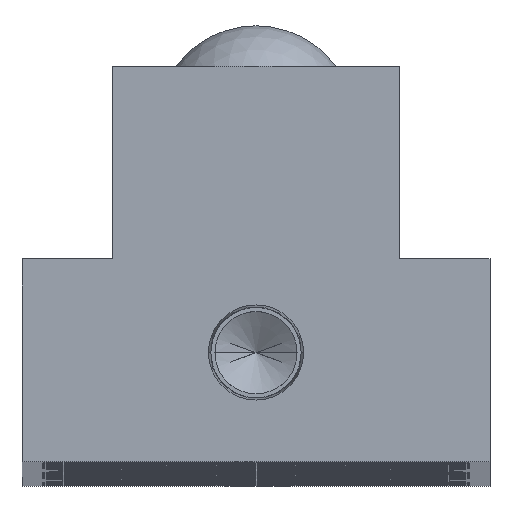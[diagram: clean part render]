
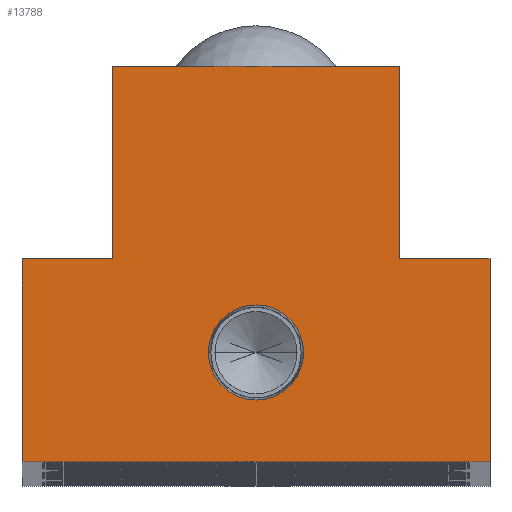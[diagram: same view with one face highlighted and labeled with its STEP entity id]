
A CAD part, top view. The second image highlights one B-rep face of the part: STEP entity #13788.
In plain terms, the highlighted planar face has unit normal (0, 0, 1).
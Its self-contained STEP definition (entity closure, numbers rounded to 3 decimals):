
#134 = LINE ( 'NONE', #23972, #4090 ) ;
#196 = CARTESIAN_POINT ( 'NONE',  ( 0., 10.5, 0. ) ) ;
#316 = EDGE_CURVE ( 'NONE', #2780, #13593, #134, .T. ) ;
#320 = CARTESIAN_POINT ( 'NONE',  ( 4.574, 10.5, 0. ) ) ;
#409 = VECTOR ( 'NONE', #7381, 1000. ) ;
#976 = DIRECTION ( 'NONE',  ( 0., -1., 0. ) ) ;
#1223 = DIRECTION ( 'NONE',  ( -1., 0., 0. ) ) ;
#1510 = FACE_OUTER_BOUND ( 'NONE', #13529, .T. ) ;
#1598 = VECTOR ( 'NONE', #21814, 1000. ) ;
#2028 = CARTESIAN_POINT ( 'NONE',  ( -4.574, 10.5, 0. ) ) ;
#2080 = AXIS2_PLACEMENT_3D ( 'NONE', #23856, #12714, #1223 ) ;
#2149 = DIRECTION ( 'NONE',  ( 1., 0., 0. ) ) ;
#2722 = ORIENTED_EDGE ( 'NONE', *, *, #22894, .T. ) ;
#2780 = VERTEX_POINT ( 'NONE', #6968 ) ;
#2880 = CARTESIAN_POINT ( 'NONE',  ( 13.75, 38., 0. ) ) ;
#3400 = CARTESIAN_POINT ( 'NONE',  ( -13.75, 19.5, 0. ) ) ;
#4090 = VECTOR ( 'NONE', #10966, 1000. ) ;
#4292 = LINE ( 'NONE', #14324, #12664 ) ;
#4369 = VECTOR ( 'NONE', #5221, 1000. ) ;
#4413 = VECTOR ( 'NONE', #23627, 1000. ) ;
#4680 = CARTESIAN_POINT ( 'NONE',  ( 0., 10.5, 0. ) ) ;
#5006 = VERTEX_POINT ( 'NONE', #22719 ) ;
#5039 = LINE ( 'NONE', #12503, #4413 ) ;
#5138 = CIRCLE ( 'NONE', #15296, 4.574 ) ;
#5221 = DIRECTION ( 'NONE',  ( -1., 0., 0. ) ) ;
#5386 = DIRECTION ( 'NONE',  ( 1., 0., 0. ) ) ;
#5888 = VERTEX_POINT ( 'NONE', #8272 ) ;
#6640 = DIRECTION ( 'NONE',  ( 1., 0., 0. ) ) ;
#6968 = CARTESIAN_POINT ( 'NONE',  ( 22.5, 0., 0. ) ) ;
#7381 = DIRECTION ( 'NONE',  ( -1., 0., 0. ) ) ;
#7696 = VERTEX_POINT ( 'NONE', #23093 ) ;
#7746 = ORIENTED_EDGE ( 'NONE', *, *, #16342, .T. ) ;
#8272 = CARTESIAN_POINT ( 'NONE',  ( -22.5, 19.5, 0. ) ) ;
#8618 = EDGE_CURVE ( 'NONE', #7696, #14605, #13670, .T. ) ;
#8644 = CIRCLE ( 'NONE', #13826, 4.574 ) ;
#8775 = CARTESIAN_POINT ( 'NONE',  ( -13.75, 38., 0. ) ) ;
#8781 = VECTOR ( 'NONE', #5386, 1000. ) ;
#9097 = CARTESIAN_POINT ( 'NONE',  ( 22.5, 19.5, 0. ) ) ;
#9835 = DIRECTION ( 'NONE',  ( 0., 1., 0. ) ) ;
#10083 = VERTEX_POINT ( 'NONE', #18409 ) ;
#10689 = LINE ( 'NONE', #24215, #409 ) ;
#10966 = DIRECTION ( 'NONE',  ( 0., 1., 0. ) ) ;
#11148 = FACE_BOUND ( 'NONE', #22578, .T. ) ;
#12010 = CARTESIAN_POINT ( 'NONE',  ( 22.5, 19.5, 0. ) ) ;
#12503 = CARTESIAN_POINT ( 'NONE',  ( -13.75, 19.5, 0. ) ) ;
#12664 = VECTOR ( 'NONE', #976, 1000. ) ;
#12714 = DIRECTION ( 'NONE',  ( 0., 0., -1. ) ) ;
#12995 = ORIENTED_EDGE ( 'NONE', *, *, #19429, .F. ) ;
#13529 = EDGE_LOOP ( 'NONE', ( #18400, #7746, #20646, #2722, #16855, #21700, #22142, #24069 ) ) ;
#13583 = DIRECTION ( 'NONE',  ( 0., 0., 1. ) ) ;
#13593 = VERTEX_POINT ( 'NONE', #12010 ) ;
#13670 = LINE ( 'NONE', #22883, #19813 ) ;
#13788 = ADVANCED_FACE ( 'NONE', ( #11148, #1510 ), #20125, .F. ) ;
#13826 = AXIS2_PLACEMENT_3D ( 'NONE', #4680, #17895, #6640 ) ;
#13896 = EDGE_CURVE ( 'NONE', #5006, #2780, #18724, .T. ) ;
#14324 = CARTESIAN_POINT ( 'NONE',  ( -22.5, 19.5, 0. ) ) ;
#14605 = VERTEX_POINT ( 'NONE', #2880 ) ;
#14613 = EDGE_CURVE ( 'NONE', #22836, #5888, #5039, .T. ) ;
#15296 = AXIS2_PLACEMENT_3D ( 'NONE', #196, #13583, #2149 ) ;
#15639 = VERTEX_POINT ( 'NONE', #320 ) ;
#16342 = EDGE_CURVE ( 'NONE', #13593, #7696, #24376, .T. ) ;
#16763 = LINE ( 'NONE', #8775, #1598 ) ;
#16855 = ORIENTED_EDGE ( 'NONE', *, *, #23724, .T. ) ;
#17838 = EDGE_CURVE ( 'NONE', #5888, #5006, #4292, .T. ) ;
#17895 = DIRECTION ( 'NONE',  ( 0., 0., 1. ) ) ;
#18400 = ORIENTED_EDGE ( 'NONE', *, *, #316, .T. ) ;
#18409 = CARTESIAN_POINT ( 'NONE',  ( -13.75, 38., 0. ) ) ;
#18724 = LINE ( 'NONE', #24174, #8781 ) ;
#18781 = VERTEX_POINT ( 'NONE', #2028 ) ;
#19429 = EDGE_CURVE ( 'NONE', #18781, #15639, #5138, .T. ) ;
#19813 = VECTOR ( 'NONE', #9835, 1000. ) ;
#20125 = PLANE ( 'NONE',  #2080 ) ;
#20646 = ORIENTED_EDGE ( 'NONE', *, *, #8618, .T. ) ;
#20834 = ORIENTED_EDGE ( 'NONE', *, *, #24186, .F. ) ;
#21700 = ORIENTED_EDGE ( 'NONE', *, *, #14613, .T. ) ;
#21814 = DIRECTION ( 'NONE',  ( 0., -1., 0. ) ) ;
#22142 = ORIENTED_EDGE ( 'NONE', *, *, #17838, .T. ) ;
#22578 = EDGE_LOOP ( 'NONE', ( #20834, #12995 ) ) ;
#22719 = CARTESIAN_POINT ( 'NONE',  ( -22.5, 0., 0. ) ) ;
#22836 = VERTEX_POINT ( 'NONE', #3400 ) ;
#22883 = CARTESIAN_POINT ( 'NONE',  ( 13.75, 38., 0. ) ) ;
#22894 = EDGE_CURVE ( 'NONE', #14605, #10083, #10689, .T. ) ;
#23093 = CARTESIAN_POINT ( 'NONE',  ( 13.75, 19.5, 0. ) ) ;
#23627 = DIRECTION ( 'NONE',  ( -1., 0., 0. ) ) ;
#23724 = EDGE_CURVE ( 'NONE', #10083, #22836, #16763, .T. ) ;
#23856 = CARTESIAN_POINT ( 'NONE',  ( 0., 0., 0. ) ) ;
#23972 = CARTESIAN_POINT ( 'NONE',  ( 22.5, 19.5, 0. ) ) ;
#24069 = ORIENTED_EDGE ( 'NONE', *, *, #13896, .T. ) ;
#24174 = CARTESIAN_POINT ( 'NONE',  ( 22.5, 0., 0. ) ) ;
#24186 = EDGE_CURVE ( 'NONE', #15639, #18781, #8644, .T. ) ;
#24215 = CARTESIAN_POINT ( 'NONE',  ( -13.75, 38., 0. ) ) ;
#24376 = LINE ( 'NONE', #9097, #4369 ) ;
